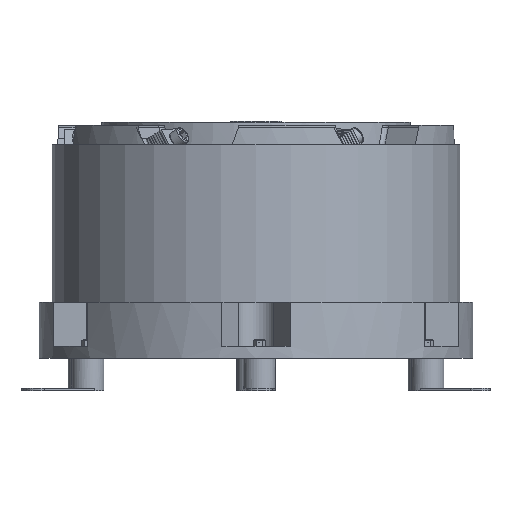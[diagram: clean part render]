
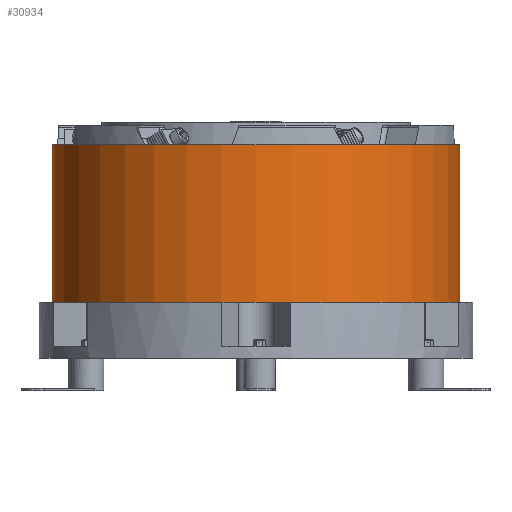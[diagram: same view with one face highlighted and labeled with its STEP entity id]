
A CAD part, front view. The second image highlights one B-rep face of the part: STEP entity #30934.
In plain terms, the highlighted cylindrical face has radius 253 mm (diameter 506 mm), a partial arc.
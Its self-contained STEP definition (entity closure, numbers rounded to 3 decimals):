
#401 = CARTESIAN_POINT ( 'NONE',  ( -306.122, 9.378, -75.645 ) ) ;
#1312 = EDGE_CURVE ( 'NONE', #40372, #2643, #43358, .T. ) ;
#2643 = VERTEX_POINT ( 'NONE', #32638 ) ;
#3011 = VECTOR ( 'NONE', #47942, 1000. ) ;
#3349 = VECTOR ( 'NONE', #56033, 1000. ) ;
#3874 = CARTESIAN_POINT ( 'NONE',  ( -53.122, 9.378, -75.645 ) ) ;
#4390 = ORIENTED_EDGE ( 'NONE', *, *, #1312, .T. ) ;
#6191 = DIRECTION ( 'NONE',  ( 0., 0., -1. ) ) ;
#6362 = VERTEX_POINT ( 'NONE', #401 ) ;
#10446 = CARTESIAN_POINT ( 'NONE',  ( -306.122, 9.378, 119.355 ) ) ;
#13672 = DIRECTION ( 'NONE',  ( 0., 0., 1. ) ) ;
#16660 = CARTESIAN_POINT ( 'NONE',  ( -53.122, 9.378, -75.645 ) ) ;
#18895 = CIRCLE ( 'NONE', #29089, 253. ) ;
#19190 = CARTESIAN_POINT ( 'NONE',  ( -306.122, 9.378, -75.645 ) ) ;
#19633 = ORIENTED_EDGE ( 'NONE', *, *, #36002, .T. ) ;
#22185 = EDGE_LOOP ( 'NONE', ( #30631, #28598, #4390, #19633 ) ) ;
#22890 = EDGE_CURVE ( 'NONE', #6362, #24019, #27868, .T. ) ;
#24019 = VERTEX_POINT ( 'NONE', #10446 ) ;
#27255 = CARTESIAN_POINT ( 'NONE',  ( 199.878, 9.378, -75.645 ) ) ;
#27843 = CARTESIAN_POINT ( 'NONE',  ( -53.122, 9.378, 119.355 ) ) ;
#27868 = LINE ( 'NONE', #19190, #3349 ) ;
#28180 = CIRCLE ( 'NONE', #44818, 253. ) ;
#28598 = ORIENTED_EDGE ( 'NONE', *, *, #39356, .T. ) ;
#29089 = AXIS2_PLACEMENT_3D ( 'NONE', #3874, #13672, #48860 ) ;
#30631 = ORIENTED_EDGE ( 'NONE', *, *, #22890, .F. ) ;
#30934 = ADVANCED_FACE ( 'NONE', ( #38630 ), #56210, .T. ) ;
#32638 = CARTESIAN_POINT ( 'NONE',  ( 199.878, 9.378, 119.355 ) ) ;
#34277 = DIRECTION ( 'NONE',  ( 0., 0., 1. ) ) ;
#36002 = EDGE_CURVE ( 'NONE', #2643, #24019, #28180, .T. ) ;
#38630 = FACE_OUTER_BOUND ( 'NONE', #22185, .T. ) ;
#39356 = EDGE_CURVE ( 'NONE', #6362, #40372, #18895, .T. ) ;
#40372 = VERTEX_POINT ( 'NONE', #27255 ) ;
#40823 = DIRECTION ( 'NONE',  ( 1., 0., 0. ) ) ;
#43358 = LINE ( 'NONE', #46338, #3011 ) ;
#44818 = AXIS2_PLACEMENT_3D ( 'NONE', #27843, #6191, #40823 ) ;
#46338 = CARTESIAN_POINT ( 'NONE',  ( 199.878, 9.378, -75.645 ) ) ;
#47942 = DIRECTION ( 'NONE',  ( 0., 0., 1. ) ) ;
#48860 = DIRECTION ( 'NONE',  ( 1., 0., 0. ) ) ;
#51864 = DIRECTION ( 'NONE',  ( 1., 0., 0. ) ) ;
#51998 = AXIS2_PLACEMENT_3D ( 'NONE', #16660, #34277, #51864 ) ;
#56033 = DIRECTION ( 'NONE',  ( 0., 0., 1. ) ) ;
#56210 = CYLINDRICAL_SURFACE ( 'NONE', #51998, 253. ) ;
